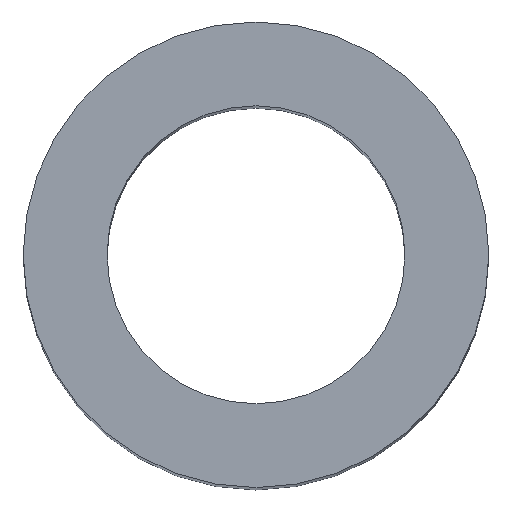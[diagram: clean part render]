
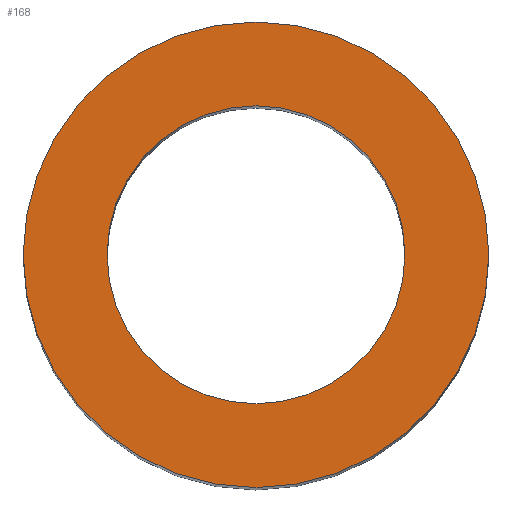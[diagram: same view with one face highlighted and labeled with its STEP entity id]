
A CAD part, top view. The second image highlights one B-rep face of the part: STEP entity #168.
In plain terms, the highlighted planar face has unit normal (0, 0, 1).
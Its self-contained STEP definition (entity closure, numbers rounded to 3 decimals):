
#2 = CARTESIAN_POINT ( 'NONE',  ( 12.5, 0., 74. ) ) ;
#14 = CARTESIAN_POINT ( 'NONE',  ( 0., 0., 74. ) ) ;
#16 = DIRECTION ( 'NONE',  ( 1., 0., 0. ) ) ;
#17 = DIRECTION ( 'NONE',  ( 0., 0., 1. ) ) ;
#18 = DIRECTION ( 'NONE',  ( 1., 0., 0. ) ) ;
#23 = CIRCLE ( 'NONE', #52, 12.5 ) ;
#30 = CARTESIAN_POINT ( 'NONE',  ( 0., 0., 74. ) ) ;
#32 = AXIS2_PLACEMENT_3D ( 'NONE', #30, #59, #16 ) ;
#34 = EDGE_CURVE ( 'NONE', #186, #201, #192, .T. ) ;
#36 = FACE_OUTER_BOUND ( 'NONE', #204, .T. ) ;
#51 = CARTESIAN_POINT ( 'NONE',  ( 0., 0., 74. ) ) ;
#52 = AXIS2_PLACEMENT_3D ( 'NONE', #117, #17, #18 ) ;
#59 = DIRECTION ( 'NONE',  ( 0., 0., 1. ) ) ;
#62 = EDGE_CURVE ( 'NONE', #144, #177, #23, .T. ) ;
#68 = AXIS2_PLACEMENT_3D ( 'NONE', #51, #154, #134 ) ;
#72 = CARTESIAN_POINT ( 'NONE',  ( 0., 0., 74. ) ) ;
#77 = CIRCLE ( 'NONE', #153, 8. ) ;
#83 = ORIENTED_EDGE ( 'NONE', *, *, #34, .F. ) ;
#91 = PLANE ( 'NONE',  #199 ) ;
#94 = ORIENTED_EDGE ( 'NONE', *, *, #62, .T. ) ;
#95 = CARTESIAN_POINT ( 'NONE',  ( -12.5, 0., 74. ) ) ;
#105 = EDGE_CURVE ( 'NONE', #177, #144, #120, .T. ) ;
#112 = ORIENTED_EDGE ( 'NONE', *, *, #167, .F. ) ;
#117 = CARTESIAN_POINT ( 'NONE',  ( 0., 0., 74. ) ) ;
#120 = CIRCLE ( 'NONE', #32, 12.5 ) ;
#127 = CARTESIAN_POINT ( 'NONE',  ( 8., 0., 74. ) ) ;
#134 = DIRECTION ( 'NONE',  ( 1., 0., 0. ) ) ;
#135 = EDGE_LOOP ( 'NONE', ( #83, #112 ) ) ;
#139 = DIRECTION ( 'NONE',  ( 0., 0., 1. ) ) ;
#142 = DIRECTION ( 'NONE',  ( 0., 0., 1. ) ) ;
#144 = VERTEX_POINT ( 'NONE', #2 ) ;
#145 = CARTESIAN_POINT ( 'NONE',  ( -8., 0., 74. ) ) ;
#153 = AXIS2_PLACEMENT_3D ( 'NONE', #72, #139, #171 ) ;
#154 = DIRECTION ( 'NONE',  ( 0., 0., 1. ) ) ;
#159 = FACE_BOUND ( 'NONE', #135, .T. ) ;
#163 = DIRECTION ( 'NONE',  ( 1., 0., 0. ) ) ;
#167 = EDGE_CURVE ( 'NONE', #201, #186, #77, .T. ) ;
#168 = ADVANCED_FACE ( 'NONE', ( #36, #159 ), #91, .T. ) ;
#171 = DIRECTION ( 'NONE',  ( 1., 0., 0. ) ) ;
#177 = VERTEX_POINT ( 'NONE', #95 ) ;
#183 = ORIENTED_EDGE ( 'NONE', *, *, #105, .T. ) ;
#186 = VERTEX_POINT ( 'NONE', #145 ) ;
#192 = CIRCLE ( 'NONE', #68, 8. ) ;
#199 = AXIS2_PLACEMENT_3D ( 'NONE', #14, #142, #163 ) ;
#201 = VERTEX_POINT ( 'NONE', #127 ) ;
#204 = EDGE_LOOP ( 'NONE', ( #183, #94 ) ) ;
